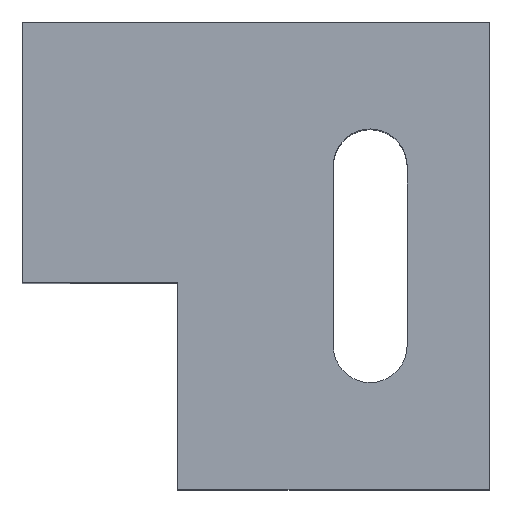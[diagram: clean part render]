
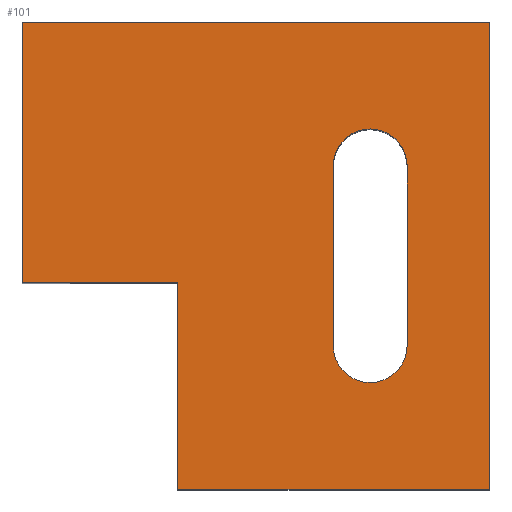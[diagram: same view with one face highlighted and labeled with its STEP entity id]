
A CAD part, top view. The second image highlights one B-rep face of the part: STEP entity #101.
In plain terms, the highlighted planar face has unit normal (0, 0, 1).
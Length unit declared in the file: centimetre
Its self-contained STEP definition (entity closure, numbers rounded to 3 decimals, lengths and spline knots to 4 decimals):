
#5 = VERTEX_POINT ( 'NONE', #203 ) ;
#10 = EDGE_CURVE ( 'NONE', #841, #44, #139, .T. ) ;
#29 = CARTESIAN_POINT ( 'NONE',  ( 0., 1000., 1000. ) ) ;
#34 = EDGE_CURVE ( 'NONE', #5, #832, #355, .T. ) ;
#43 = LINE ( 'NONE', #600, #904 ) ;
#44 = VERTEX_POINT ( 'NONE', #470 ) ;
#51 = CARTESIAN_POINT ( 'NONE',  ( 0., 0., 1000. ) ) ;
#55 = CIRCLE ( 'NONE', #277, 79.0659 ) ;
#59 = DIRECTION ( 'NONE',  ( -1., 0., 0. ) ) ;
#70 = CARTESIAN_POINT ( 'NONE',  ( 744.3702, 691.9307, 1000. ) ) ;
#78 = CARTESIAN_POINT ( 'NONE',  ( 1000., 1000., 1000. ) ) ;
#79 = LINE ( 'NONE', #498, #239 ) ;
#89 = DIRECTION ( 'NONE',  ( 0., -1., 0. ) ) ;
#90 = CARTESIAN_POINT ( 'NONE',  ( 1000., 1000., 1000. ) ) ;
#101 = ADVANCED_FACE ( 'NONE', ( #226, #216 ), #286, .T. ) ;
#110 = VECTOR ( 'NONE', #211, 100. ) ;
#118 = ORIENTED_EDGE ( 'NONE', *, *, #389, .T. ) ;
#125 = VECTOR ( 'NONE', #544, 100. ) ;
#131 = EDGE_CURVE ( 'NONE', #489, #421, #79, .T. ) ;
#139 = LINE ( 'NONE', #613, #125 ) ;
#158 = LINE ( 'NONE', #782, #214 ) ;
#165 = LINE ( 'NONE', #51, #758 ) ;
#170 = ORIENTED_EDGE ( 'NONE', *, *, #179, .T. ) ;
#172 = DIRECTION ( 'NONE',  ( 1., 0., 0. ) ) ;
#177 = ORIENTED_EDGE ( 'NONE', *, *, #131, .T. ) ;
#179 = EDGE_CURVE ( 'NONE', #421, #841, #213, .T. ) ;
#181 = ORIENTED_EDGE ( 'NONE', *, *, #34, .F. ) ;
#188 = CARTESIAN_POINT ( 'NONE',  ( 332.3433, 0., 1000. ) ) ;
#203 = CARTESIAN_POINT ( 'NONE',  ( 332.3433, 0., 1000. ) ) ;
#211 = DIRECTION ( 'NONE',  ( 0., 1., 0. ) ) ;
#212 = VERTEX_POINT ( 'NONE', #90 ) ;
#213 = CIRCLE ( 'NONE', #708, 79.0659 ) ;
#214 = VECTOR ( 'NONE', #220, 100. ) ;
#216 = FACE_OUTER_BOUND ( 'NONE', #818, .T. ) ;
#220 = DIRECTION ( 'NONE',  ( -1., 0., 0. ) ) ;
#226 = FACE_BOUND ( 'NONE', #597, .T. ) ;
#239 = VECTOR ( 'NONE', #705, 100. ) ;
#255 = VERTEX_POINT ( 'NONE', #510 ) ;
#264 = EDGE_CURVE ( 'NONE', #5, #255, #165, .T. ) ;
#277 = AXIS2_PLACEMENT_3D ( 'NONE', #70, #683, #59 ) ;
#286 = PLANE ( 'NONE',  #569 ) ;
#290 = DIRECTION ( 'NONE',  ( 0., 0., -1. ) ) ;
#298 = DIRECTION ( 'NONE',  ( 1., 0., 0. ) ) ;
#305 = ORIENTED_EDGE ( 'NONE', *, *, #10, .T. ) ;
#355 = LINE ( 'NONE', #188, #707 ) ;
#384 = ORIENTED_EDGE ( 'NONE', *, *, #893, .T. ) ;
#389 = EDGE_CURVE ( 'NONE', #255, #212, #543, .T. ) ;
#410 = CARTESIAN_POINT ( 'NONE',  ( 665.3043, 307.1541, 1000. ) ) ;
#421 = VERTEX_POINT ( 'NONE', #479 ) ;
#443 = ORIENTED_EDGE ( 'NONE', *, *, #599, .T. ) ;
#448 = CARTESIAN_POINT ( 'NONE',  ( 0., 1000., 1000. ) ) ;
#467 = VECTOR ( 'NONE', #89, 100. ) ;
#470 = CARTESIAN_POINT ( 'NONE',  ( 665.3043, 691.9307, 1000. ) ) ;
#479 = CARTESIAN_POINT ( 'NONE',  ( 823.4361, 307.1541, 1000. ) ) ;
#485 = ORIENTED_EDGE ( 'NONE', *, *, #264, .T. ) ;
#489 = VERTEX_POINT ( 'NONE', #856 ) ;
#498 = CARTESIAN_POINT ( 'NONE',  ( 823.4361, 691.9307, 1000. ) ) ;
#510 = CARTESIAN_POINT ( 'NONE',  ( 1000., 0., 1000. ) ) ;
#512 = LINE ( 'NONE', #29, #467 ) ;
#521 = ORIENTED_EDGE ( 'NONE', *, *, #779, .F. ) ;
#543 = LINE ( 'NONE', #78, #110 ) ;
#544 = DIRECTION ( 'NONE',  ( 0., 1., 0. ) ) ;
#567 = DIRECTION ( 'NONE',  ( -1., 0., 0. ) ) ;
#569 = AXIS2_PLACEMENT_3D ( 'NONE', #783, #778, #298 ) ;
#597 = EDGE_LOOP ( 'NONE', ( #170, #305, #384, #177 ) ) ;
#599 = EDGE_CURVE ( 'NONE', #212, #658, #158, .T. ) ;
#600 = CARTESIAN_POINT ( 'NONE',  ( 0., 441.7695, 1000. ) ) ;
#603 = DIRECTION ( 'NONE',  ( 0., 1., 0. ) ) ;
#613 = CARTESIAN_POINT ( 'NONE',  ( 665.3043, 307.1541, 1000. ) ) ;
#632 = CARTESIAN_POINT ( 'NONE',  ( 0., 441.7695, 1000. ) ) ;
#639 = EDGE_CURVE ( 'NONE', #658, #885, #512, .T. ) ;
#640 = CARTESIAN_POINT ( 'NONE',  ( 744.3702, 307.1541, 1000. ) ) ;
#658 = VERTEX_POINT ( 'NONE', #448 ) ;
#683 = DIRECTION ( 'NONE',  ( 0., 0., -1. ) ) ;
#705 = DIRECTION ( 'NONE',  ( 0., -1., 0. ) ) ;
#707 = VECTOR ( 'NONE', #603, 100. ) ;
#708 = AXIS2_PLACEMENT_3D ( 'NONE', #640, #290, #567 ) ;
#732 = ORIENTED_EDGE ( 'NONE', *, *, #639, .T. ) ;
#758 = VECTOR ( 'NONE', #172, 100. ) ;
#778 = DIRECTION ( 'NONE',  ( 0., 0., 1. ) ) ;
#779 = EDGE_CURVE ( 'NONE', #832, #885, #43, .T. ) ;
#782 = CARTESIAN_POINT ( 'NONE',  ( 0., 1000., 1000. ) ) ;
#783 = CARTESIAN_POINT ( 'NONE',  ( 0., 0., 1000. ) ) ;
#818 = EDGE_LOOP ( 'NONE', ( #521, #181, #485, #118, #443, #732 ) ) ;
#828 = CARTESIAN_POINT ( 'NONE',  ( 332.3433, 441.7695, 1000. ) ) ;
#832 = VERTEX_POINT ( 'NONE', #828 ) ;
#841 = VERTEX_POINT ( 'NONE', #410 ) ;
#856 = CARTESIAN_POINT ( 'NONE',  ( 823.4361, 691.9307, 1000. ) ) ;
#885 = VERTEX_POINT ( 'NONE', #632 ) ;
#893 = EDGE_CURVE ( 'NONE', #44, #489, #55, .T. ) ;
#894 = DIRECTION ( 'NONE',  ( -1., 0., 0. ) ) ;
#904 = VECTOR ( 'NONE', #894, 100. ) ;
